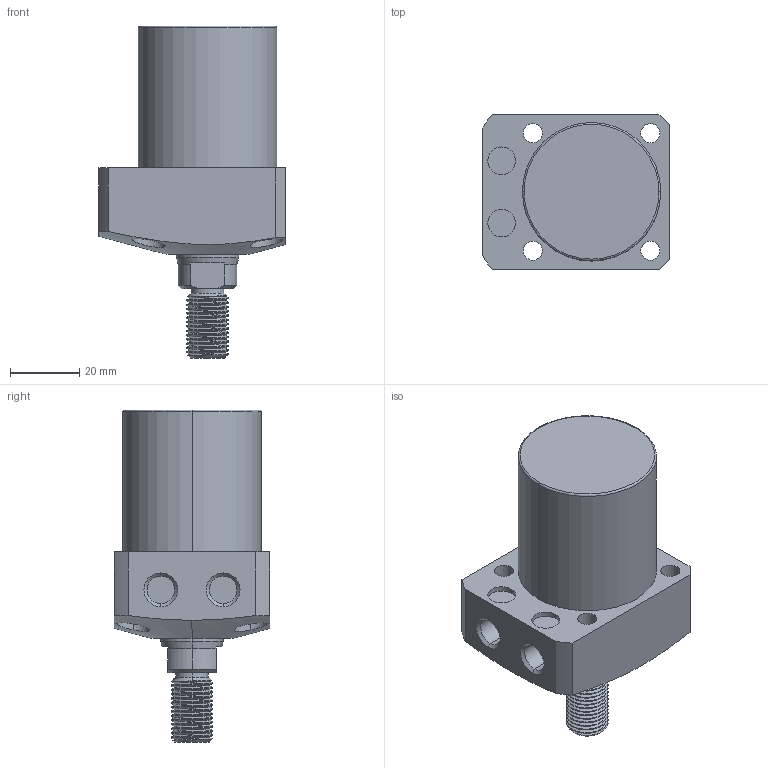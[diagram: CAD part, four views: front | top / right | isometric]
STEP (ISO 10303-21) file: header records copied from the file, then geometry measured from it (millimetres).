
FILE_DESCRIPTION (( 'STEP AP203' ), '1' );
FILE_NAME ('CLL-040CT-030.STEP', '2020-01-08T08:58:55', ( '' ), ( '' ), 'SwSTEP 2.0', 'SolidWorks 2015', '' );
FILE_SCHEMA (( 'CONFIG_CONTROL_DESIGN' ));
Length unit declared in the file: millimetre
Products named in the file (1): CLL-040CT-030
Bounding box: 54 x 45 x 96 mm (x, y, z)
Volume: 105881.7 mm3; surface area: 17974.5 mm2
Topology: 1 solids, 1 shells, 106 faces, 267 edges, 174 vertices
Faces by surface type: cylinder 63, plane 23, cone 16, torus 2, bspline 2
Entity records: 5223 total; most frequent: CARTESIAN_POINT 2741, ORIENTED_EDGE 534, DIRECTION 472, EDGE_CURVE 267, AXIS2_PLACEMENT_3D 189, VERTEX_POINT 174, EDGE_LOOP 125, FACE_OUTER_BOUND 106
